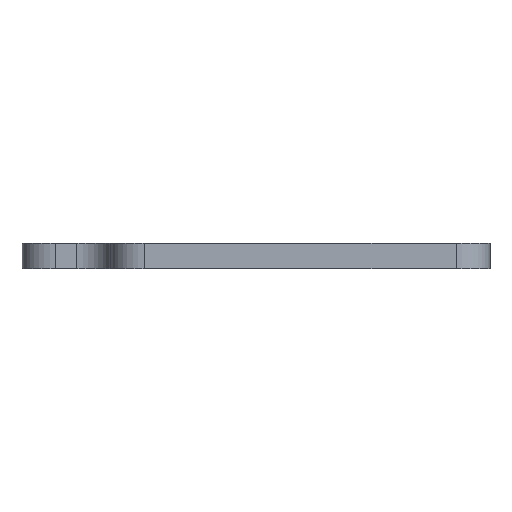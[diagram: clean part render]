
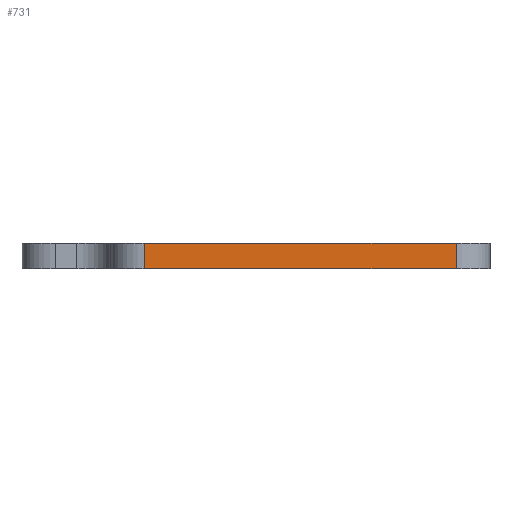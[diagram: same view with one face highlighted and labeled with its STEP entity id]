
A CAD part, left-side view. The second image highlights one B-rep face of the part: STEP entity #731.
In plain terms, the highlighted planar face has unit normal (-1, 0, 0).
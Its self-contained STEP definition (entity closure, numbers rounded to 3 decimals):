
#47=PLANE('',#821);
#83=FACE_OUTER_BOUND('',#128,.T.);
#128=EDGE_LOOP('',(#639,#640,#641,#642));
#153=LINE('',#1085,#215);
#182=LINE('',#1188,#244);
#183=LINE('',#1192,#245);
#200=LINE('',#1244,#262);
#215=VECTOR('',#863,10.);
#244=VECTOR('',#968,10.);
#245=VECTOR('',#973,10.);
#262=VECTOR('',#1036,10.);
#320=VERTEX_POINT('',#1082);
#321=VERTEX_POINT('',#1084);
#357=VERTEX_POINT('',#1186);
#358=VERTEX_POINT('',#1190);
#392=EDGE_CURVE('',#321,#320,#153,.T.);
#444=EDGE_CURVE('',#357,#320,#182,.T.);
#446=EDGE_CURVE('',#321,#358,#183,.T.);
#472=EDGE_CURVE('',#358,#357,#200,.T.);
#639=ORIENTED_EDGE('',*,*,#444,.F.);
#640=ORIENTED_EDGE('',*,*,#472,.F.);
#641=ORIENTED_EDGE('',*,*,#446,.F.);
#642=ORIENTED_EDGE('',*,*,#392,.T.);
#731=ADVANCED_FACE('',(#83),#47,.T.);
#821=AXIS2_PLACEMENT_3D('',#1243,#1034,#1035);
#863=DIRECTION('',(0.,-1.,0.));
#968=DIRECTION('',(0.,0.,-1.));
#973=DIRECTION('',(0.,0.,1.));
#1034=DIRECTION('center_axis',(-1.,0.,0.));
#1035=DIRECTION('ref_axis',(0.,-1.,0.));
#1036=DIRECTION('',(0.,-1.,0.));
#1082=CARTESIAN_POINT('',(-45.5,-28.5,0.));
#1084=CARTESIAN_POINT('',(-45.5,8.5,0.));
#1085=CARTESIAN_POINT('',(-45.5,12.5,0.));
#1186=CARTESIAN_POINT('',(-45.5,-28.5,3.));
#1188=CARTESIAN_POINT('',(-45.5,-28.5,0.));
#1190=CARTESIAN_POINT('',(-45.5,8.5,3.));
#1192=CARTESIAN_POINT('',(-45.5,8.5,0.));
#1243=CARTESIAN_POINT('Origin',(-45.5,12.5,0.));
#1244=CARTESIAN_POINT('',(-45.5,12.5,3.));
